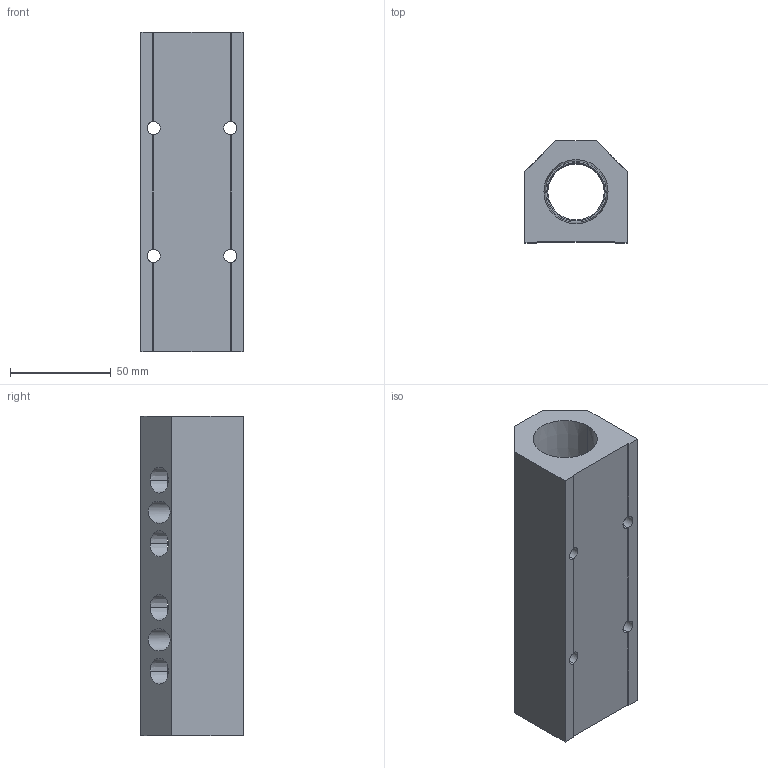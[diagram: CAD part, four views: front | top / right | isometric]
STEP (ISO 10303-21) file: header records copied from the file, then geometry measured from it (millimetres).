
FILE_DESCRIPTION (( 'STEP AP214' ), '1' );
FILE_NAME ('ALM4BCD-N4N16-159R.STEP', '2023-11-02T06:48:28', ( '' ), ( '' ), 'SwSTEP 2.0', 'SolidWorks 2020', '' );
FILE_SCHEMA (( 'AUTOMOTIVE_DESIGN' ));
Length unit declared in the file: millimetre
Products named in the file (1): ALM4BCD-N4N16-159R
Bounding box: 50.8 x 50.8 x 159 mm (x, y, z)
Volume: 239754.5 mm3; surface area: 53274 mm2
Topology: 1 solids, 1 shells, 331 faces, 866 edges, 572 vertices
Faces by surface type: plane 220, bspline 57, cone 32, cylinder 22
Entity records: 17871 total; most frequent: CARTESIAN_POINT 7031, ORIENTED_EDGE 1732, DIRECTION 1330, EDGE_CURVE 866, VECTOR 644, LINE 644, VERTEX_POINT 572, EDGE_LOOP 400
